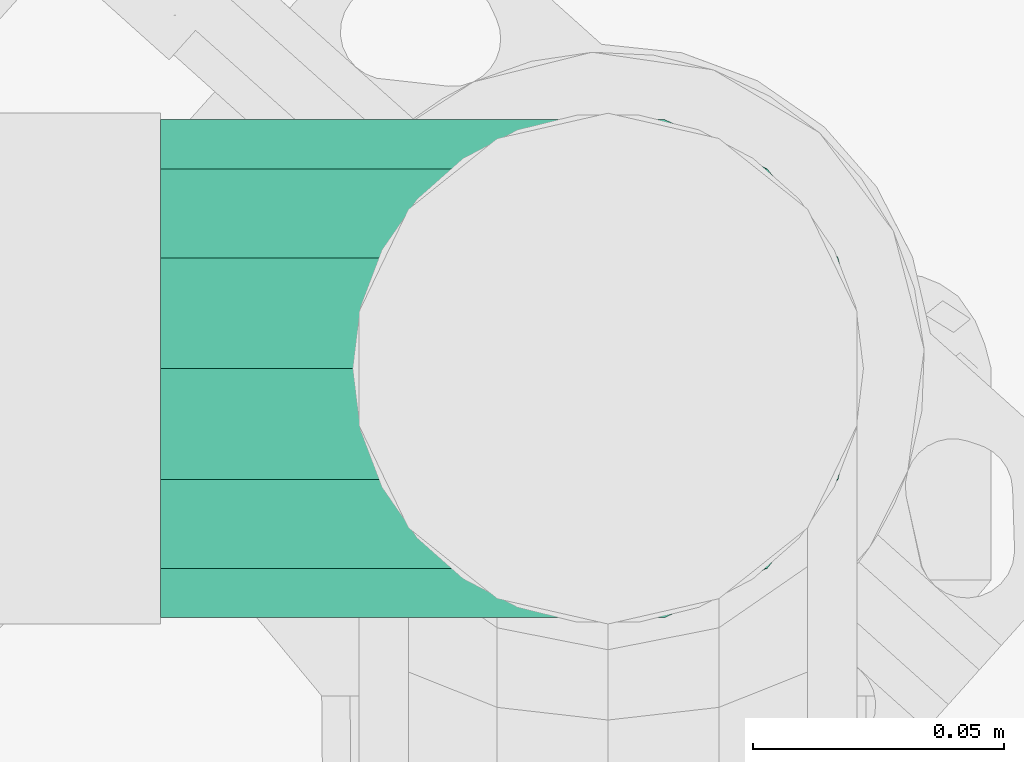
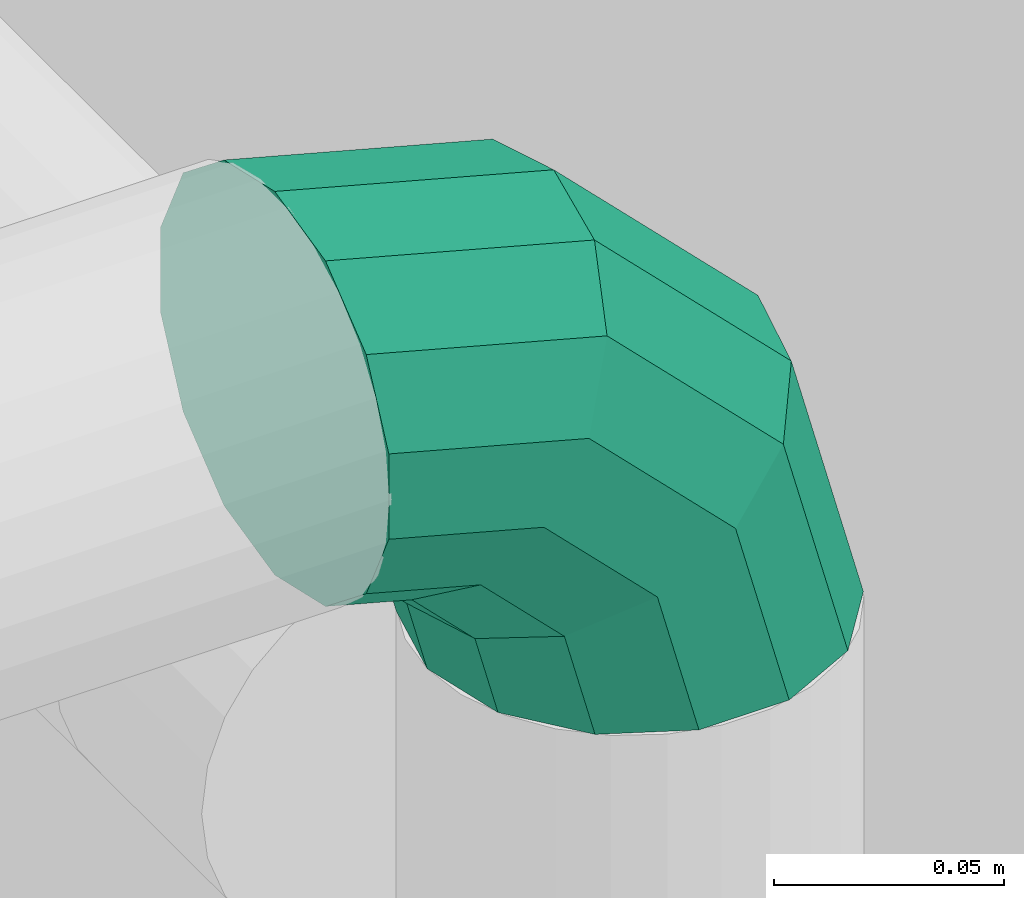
# One storey, part 31 of 43: 1 flow fitting.
"""IFC2X3 building model written with IfcOpenShell, lengths in millimetres."""

from ifc_helpers import new_model, entity, si_unit, converted_unit, derived_unit, direction, frame, origin, place, context, subcontext, project, spatial, faceted_brep, source, transform, mapped, material, material_list, type_object, type_shapes, element, save


model = new_model("IFC2X3")

# Units and contexts
model_context = context("Model", 3, precision=0.01, world=origin(), true_north=direction((6.123031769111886e-17, 1.0)))
body_context = subcontext(model_context, "Body", "Model", "MODEL_VIEW")
ifc_project = project(units=[si_unit("LENGTHUNIT", "METRE", prefix="MILLI"), si_unit("AREAUNIT", "SQUARE_METRE"), si_unit("VOLUMEUNIT", "CUBIC_METRE"), converted_unit("PLANEANGLEUNIT", "DEGREE", entity("IfcRatioMeasure", 0.017453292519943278), si_unit("PLANEANGLEUNIT", "RADIAN"), dimensions=[0, 0, 0, 0, 0, 0, 0]), si_unit("MASSUNIT", "GRAM", prefix="KILO"), derived_unit("MASSDENSITYUNIT", [(si_unit("MASSUNIT", "GRAM", prefix="KILO"), 1), (si_unit("LENGTHUNIT", "METRE"), -3)]), derived_unit("MOMENTOFINERTIAUNIT", [(si_unit("LENGTHUNIT", "METRE"), 4)]), si_unit("TIMEUNIT", "SECOND"), si_unit("FREQUENCYUNIT", "HERTZ"), si_unit("THERMODYNAMICTEMPERATUREUNIT", "DEGREE_CELSIUS"), derived_unit("THERMALTRANSMITTANCEUNIT", [(si_unit("MASSUNIT", "GRAM", prefix="KILO"), 1), (si_unit("THERMODYNAMICTEMPERATUREUNIT", "KELVIN"), -1), (si_unit("TIMEUNIT", "SECOND"), -3)]), derived_unit("VOLUMETRICFLOWRATEUNIT", [(si_unit("LENGTHUNIT", "METRE"), 3), (si_unit("TIMEUNIT", "SECOND"), -1)]), derived_unit("MASSFLOWRATEUNIT", [(si_unit("MASSUNIT", "GRAM", prefix="KILO"), 1), (si_unit("TIMEUNIT", "SECOND"), -1)]), derived_unit("ROTATIONALFREQUENCYUNIT", [(si_unit("TIMEUNIT", "SECOND"), -1)]), si_unit("ELECTRICCURRENTUNIT", "AMPERE"), si_unit("ELECTRICVOLTAGEUNIT", "VOLT"), si_unit("POWERUNIT", "WATT"), si_unit("FORCEUNIT", "NEWTON", prefix="KILO"), si_unit("ILLUMINANCEUNIT", "LUX"), si_unit("LUMINOUSFLUXUNIT", "LUMEN"), si_unit("LUMINOUSINTENSITYUNIT", "CANDELA"), derived_unit("USERDEFINED", [(si_unit("MASSUNIT", "GRAM", prefix="KILO"), -1), (si_unit("LENGTHUNIT", "METRE"), -2), (si_unit("TIMEUNIT", "SECOND"), 3), (si_unit("LUMINOUSFLUXUNIT", "LUMEN"), 1)]), derived_unit("SOUNDPOWERUNIT", [(si_unit("MASSUNIT", "GRAM", prefix="KILO"), 1), (si_unit("LENGTHUNIT", "METRE"), 2), (si_unit("TIMEUNIT", "SECOND"), -3)]), derived_unit("SOUNDPRESSUREUNIT", [(si_unit("MASSUNIT", "GRAM", prefix="KILO"), 1), (si_unit("LENGTHUNIT", "METRE"), -1), (si_unit("TIMEUNIT", "SECOND"), -2)]), derived_unit("LINEARVELOCITYUNIT", [(si_unit("LENGTHUNIT", "METRE"), 1), (si_unit("TIMEUNIT", "SECOND"), -1)]), si_unit("PRESSUREUNIT", "PASCAL"), derived_unit("USERDEFINED", [(si_unit("LENGTHUNIT", "METRE"), -2), (si_unit("MASSUNIT", "GRAM", prefix="KILO"), 1), (si_unit("TIMEUNIT", "SECOND"), -2)]), derived_unit("LINEARFORCEUNIT", [(si_unit("MASSUNIT", "GRAM", prefix="KILO"), 1), (si_unit("LENGTHUNIT", "METRE"), 1), (si_unit("TIMEUNIT", "SECOND"), -2), (si_unit("LENGTHUNIT", "METRE"), -1)]), derived_unit("PLANARFORCEUNIT", [(si_unit("MASSUNIT", "GRAM", prefix="KILO"), 1), (si_unit("LENGTHUNIT", "METRE"), 1), (si_unit("TIMEUNIT", "SECOND"), -2), (si_unit("LENGTHUNIT", "METRE"), -2)])], contexts=[model_context])

# Site, building, storey
site_placement = place(None, origin())
site = spatial("IfcSite", under=ifc_project, at=site_placement, Name="Default", CompositionType="ELEMENT")
building_placement = place(site_placement, origin())
building = spatial("IfcBuilding", under=site, at=building_placement, CompositionType="ELEMENT")
storey_placement = place(building_placement, frame((0.0, 0.0, 270.0)))
storey = spatial("IfcBuildingStorey", under=building, at=storey_placement, Name="Niveau 0", CompositionType="ELEMENT", Elevation=270.0)

# Flow fitting
ifc_material = material(Name="<Unnamed>")
ifc_material_list_1 = material_list([ifc_material, ifc_material])
ifc_material_list_2 = material_list([ifc_material, ifc_material])
pipe_fitting_type = type_object("IfcPipeFittingType", Name="Coude - Générique:Standard", PredefinedType="NOTDEFINED", material=ifc_material_list_2)
shared_shape = source(origin(), body_context, "Body", "Brep", [
    faceted_brep([(32.070314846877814, 19.10004349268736, 0.0), (27.71352824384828, 21.615430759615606, -22.04129394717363), (45.7691115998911, 89.00005496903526, -22.04129394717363), (50.799893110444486, 89.0000610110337, 0.0), (15.506083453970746, 28.663389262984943, -39.71703930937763), (31.673175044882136, 89.00003803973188, -39.71703930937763), (-2.1341853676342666, 38.847984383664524, -49.52633793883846), (11.303956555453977, 89.00001357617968, -49.52633793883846), (-21.71340663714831, 50.15203215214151, -49.526337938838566), (-11.304170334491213, 88.99998642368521, -49.526337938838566), (-39.35367545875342, 60.336627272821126, -39.71703930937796), (-31.67338882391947, 88.999961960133, -39.71703930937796), (-51.561120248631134, 67.38458577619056, -22.041293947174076), (-45.76932537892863, 88.99994503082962, -22.041293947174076), (-55.91790685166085, 69.89997304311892, 0.0), (-50.80010688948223, 88.99993898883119, 0.0), (-51.56112024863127, 67.38458577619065, 22.041293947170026), (-45.769325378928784, 88.99994503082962, 22.041293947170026), (-39.35367545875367, 60.33662727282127, 39.71703930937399), (-31.67338882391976, 88.999961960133, 39.71703930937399), (-21.713406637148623, 50.15203215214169, 49.52633793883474), (-11.304170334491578, 88.99998642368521, 49.52633793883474), (-2.134185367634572, 38.8479843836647, 49.52633793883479), (11.303956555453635, 89.00001357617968, 49.52633793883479), (15.50608345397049, 28.663389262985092, 39.71703930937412), (31.67317504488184, 89.00003803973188, 39.71703930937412), (27.713528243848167, 21.615430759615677, 22.04129394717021), (45.76911159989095, 89.00005496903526, 22.04129394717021), (-19.100004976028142, -32.07033778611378, 0.0), (-21.61539747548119, -27.713554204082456, -22.04129394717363), (-28.663370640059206, -15.506117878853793, -39.71703930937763), (-38.84798694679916, 2.1341387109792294, -49.52633793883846), (-50.152058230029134, 21.713346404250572, -49.526337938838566), (-60.33667453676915, 39.353602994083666, -39.71703930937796), (-67.38464770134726, 51.56103931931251, -22.041293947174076), (-69.90004020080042, 55.917822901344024, 0.0), (-67.38464770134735, 51.56103931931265, 22.041293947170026), (-60.336674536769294, 39.353602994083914, 39.71703930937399), (-50.15205823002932, 21.713346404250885, 49.52633793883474), (-38.84798694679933, 2.134138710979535, 49.52633793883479), (-28.663370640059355, -15.506117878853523, 39.71703930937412), (-21.61539747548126, -27.713554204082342, 22.04129394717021), (-89.0, -50.8000000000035, 0.0), (-89.0, -45.76921848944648, -22.04129394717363), (-89.0, -31.673281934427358, -39.71703930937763), (-89.0, -11.304063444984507, -49.52633793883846), (-89.0, 11.304063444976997, -49.526337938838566), (-89.0, 31.673281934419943, -39.71703930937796), (-89.0, 45.76921848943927, -22.041293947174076), (-89.0, 50.7999999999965, 0.0), (-89.0, 45.769218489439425, 22.041293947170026), (-89.0, 31.67328193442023, 39.71703930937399), (-89.0, 11.30406344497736, 49.52633793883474), (-89.0, -11.304063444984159, 49.52633793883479), (-89.0, -31.67328193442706, 39.71703930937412), (-89.0, -45.76921848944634, 22.04129394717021)], [[[0, 1, 2, 3]], [[1, 4, 5, 2]], [[4, 6, 7, 5]], [[6, 8, 9, 7]], [[8, 10, 11, 9]], [[10, 12, 13, 11]], [[12, 14, 15, 13]], [[14, 16, 17, 15]], [[16, 18, 19, 17]], [[18, 20, 21, 19]], [[20, 22, 23, 21]], [[22, 24, 25, 23]], [[24, 26, 27, 25]], [[26, 0, 3, 27]], [[28, 29, 1, 0]], [[29, 30, 4, 1]], [[30, 31, 6, 4]], [[31, 32, 8, 6]], [[32, 33, 10, 8]], [[33, 34, 12, 10]], [[34, 35, 14, 12]], [[35, 36, 16, 14]], [[36, 37, 18, 16]], [[37, 38, 20, 18]], [[38, 39, 22, 20]], [[39, 40, 24, 22]], [[40, 41, 26, 24]], [[41, 28, 0, 26]], [[42, 43, 29, 28]], [[43, 44, 30, 29]], [[44, 45, 31, 30]], [[45, 46, 32, 31]], [[46, 47, 33, 32]], [[47, 48, 34, 33]], [[48, 49, 35, 34]], [[49, 50, 36, 35]], [[50, 51, 37, 36]], [[51, 52, 38, 37]], [[52, 53, 39, 38]], [[53, 54, 40, 39]], [[54, 55, 41, 40]], [[55, 42, 28, 41]], [[3, 2, 5, 7, 9, 11, 13, 15, 17, 19, 21, 23, 25, 27]], [[55, 54, 53, 52, 51, 50, 49, 48, 47, 46, 45, 44, 43, 42]]]),
])
type_shapes(pipe_fitting_type, [shared_shape])
flow_fitting_placement = place(storey_placement, frame((-2018.2631800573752, -12830.0, 2751.9667503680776), z_axis=(0.0, -1.0, 0.0), x_axis=(0.0, 0.0, 1.0)))
element("IfcFlowFitting", 1, at=flow_fitting_placement, inside=storey, type_object=pipe_fitting_type, material=ifc_material_list_1, Name="Coude - Générique:Standard", ObjectType="Coude - Générique:Standard", context=body_context, shape_type="MappedRepresentation", body=[
    mapped(shared_shape, transform((0.0, 0.0, 0.0), scale=1.0)),
])

save(model, "model.ifc")
